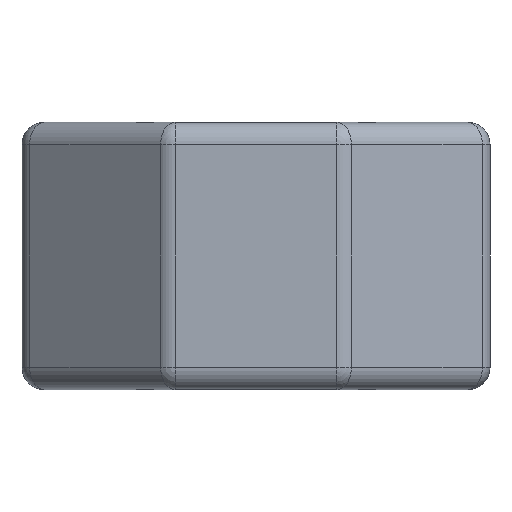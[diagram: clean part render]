
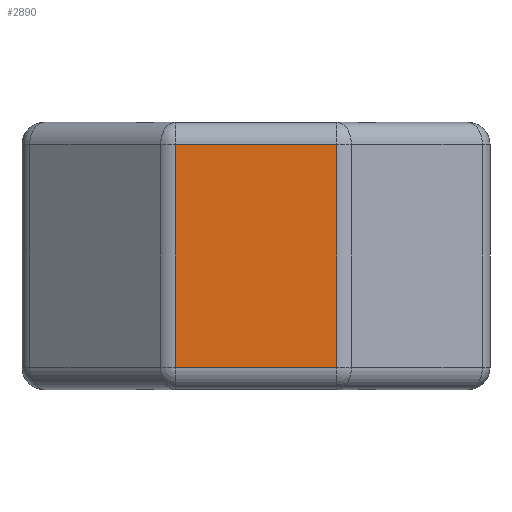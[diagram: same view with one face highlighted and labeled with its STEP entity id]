
A CAD part, front view. The second image highlights one B-rep face of the part: STEP entity #2890.
In plain terms, the highlighted planar face has unit normal (0, -1, 0).
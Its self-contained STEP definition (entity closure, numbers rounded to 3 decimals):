
#37 = DIRECTION ( 'NONE',  ( 0., 0., 1. ) ) ;
#298 = LINE ( 'NONE', #2993, #1163 ) ;
#313 = DIRECTION ( 'NONE',  ( 1., 0., 0. ) ) ;
#363 = CARTESIAN_POINT ( 'NONE',  ( -2., -5.3, 3. ) ) ;
#443 = FACE_OUTER_BOUND ( 'NONE', #4789, .T. ) ;
#714 = LINE ( 'NONE', #4808, #5198 ) ;
#854 = VECTOR ( 'NONE', #313, 1000. ) ;
#911 = EDGE_CURVE ( 'NONE', #4974, #3530, #4253, .T. ) ;
#927 = ORIENTED_EDGE ( 'NONE', *, *, #1850, .T. ) ;
#1163 = VECTOR ( 'NONE', #37, 1000. ) ;
#1216 = DIRECTION ( 'NONE',  ( 0., 0., 1. ) ) ;
#1307 = VECTOR ( 'NONE', #1885, 1000. ) ;
#1625 = CARTESIAN_POINT ( 'NONE',  ( 1.814, -5.3, -2.5 ) ) ;
#1724 = ORIENTED_EDGE ( 'NONE', *, *, #4782, .T. ) ;
#1850 = EDGE_CURVE ( 'NONE', #4812, #4974, #298, .T. ) ;
#1885 = DIRECTION ( 'NONE',  ( -1., 0., 0. ) ) ;
#2110 = DIRECTION ( 'NONE',  ( 0., 1., 0. ) ) ;
#2171 = CARTESIAN_POINT ( 'NONE',  ( 1.814, -5.3, 2.5 ) ) ;
#2195 = CARTESIAN_POINT ( 'NONE',  ( -2., -5.3, 2.5 ) ) ;
#2361 = VERTEX_POINT ( 'NONE', #4023 ) ;
#2649 = ORIENTED_EDGE ( 'NONE', *, *, #5114, .T. ) ;
#2890 = ADVANCED_FACE ( 'NONE', ( #443 ), #5473, .F. ) ;
#2993 = CARTESIAN_POINT ( 'NONE',  ( 1.814, -5.3, 3. ) ) ;
#3093 = AXIS2_PLACEMENT_3D ( 'NONE', #363, #2110, #1216 ) ;
#3143 = DIRECTION ( 'NONE',  ( 0., 0., -1. ) ) ;
#3281 = CARTESIAN_POINT ( 'NONE',  ( -1.814, -5.3, 2.5 ) ) ;
#3530 = VERTEX_POINT ( 'NONE', #3281 ) ;
#4023 = CARTESIAN_POINT ( 'NONE',  ( -1.814, -5.3, -2.5 ) ) ;
#4253 = LINE ( 'NONE', #2195, #1307 ) ;
#4398 = ORIENTED_EDGE ( 'NONE', *, *, #911, .T. ) ;
#4782 = EDGE_CURVE ( 'NONE', #2361, #4812, #5060, .T. ) ;
#4789 = EDGE_LOOP ( 'NONE', ( #1724, #927, #4398, #2649 ) ) ;
#4808 = CARTESIAN_POINT ( 'NONE',  ( -1.814, -5.3, 3. ) ) ;
#4812 = VERTEX_POINT ( 'NONE', #1625 ) ;
#4974 = VERTEX_POINT ( 'NONE', #2171 ) ;
#5060 = LINE ( 'NONE', #5419, #854 ) ;
#5114 = EDGE_CURVE ( 'NONE', #3530, #2361, #714, .T. ) ;
#5198 = VECTOR ( 'NONE', #3143, 1000. ) ;
#5419 = CARTESIAN_POINT ( 'NONE',  ( 2., -5.3, -2.5 ) ) ;
#5473 = PLANE ( 'NONE',  #3093 ) ;
